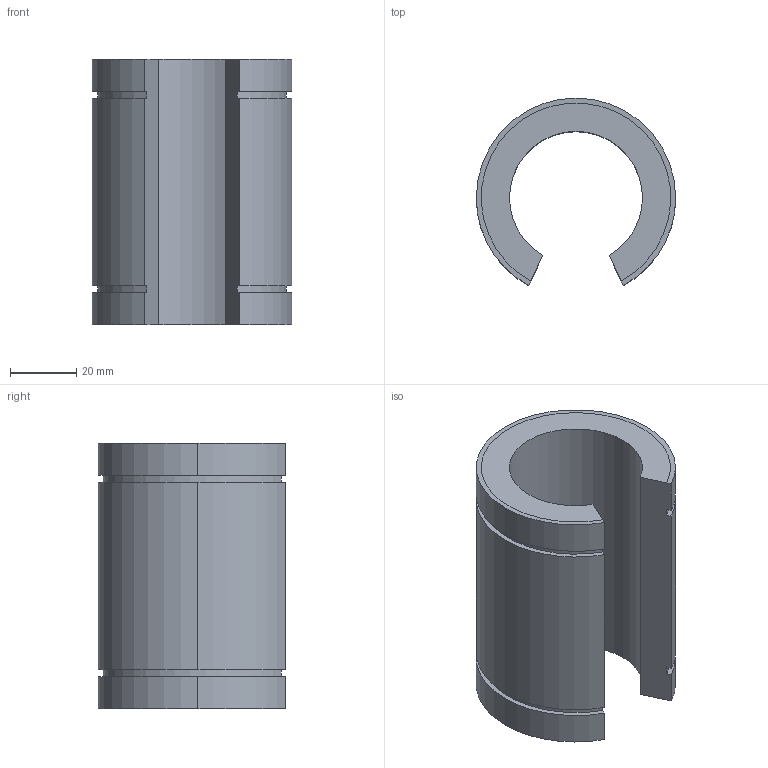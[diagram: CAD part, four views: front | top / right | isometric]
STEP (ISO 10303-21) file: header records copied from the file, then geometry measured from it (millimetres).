
FILE_DESCRIPTION((''),'2;1');
FILE_NAME('C:\Documents and Settings\ｿﾀﾀ蠑ｷ1\ｹﾙﾅﾁ ﾈｭｸ饅\ｺﾎﾇｰﾆﾄﾀﾏ\ﾁｦﾇｰ\LM__UUOP\LM40UUOP.stp','2005-06-14T16:18:28',('ｿﾀﾀ蠑ｷ1'),(''),'Autodesk Inventor 9','Autodesk Inventor 9','');
FILE_SCHEMA(('AUTOMOTIVE_DESIGN { 1 0 10303 214 1 1 1 1 }'));
Length unit declared in the file: millimetre
Products named in the file (1): LM__
Bounding box: 60 x 56.41 x 80 mm (x, y, z)
Volume: 104444 mm3; surface area: 26205.2 mm2
Topology: 1 solids, 1 shells, 26 faces, 72 edges, 48 vertices
Faces by surface type: cylinder 16, plane 10
Entity records: 873 total; most frequent: DIRECTION 160, CARTESIAN_POINT 147, ORIENTED_EDGE 144, EDGE_CURVE 72, AXIS2_PLACEMENT_3D 61, VERTEX_POINT 48, VECTOR 38, LINE 38
